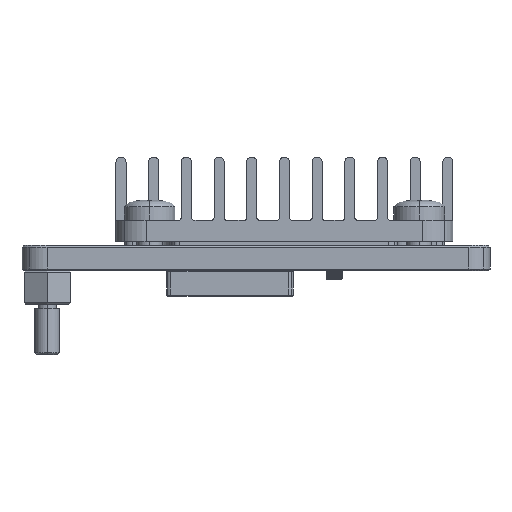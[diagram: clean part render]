
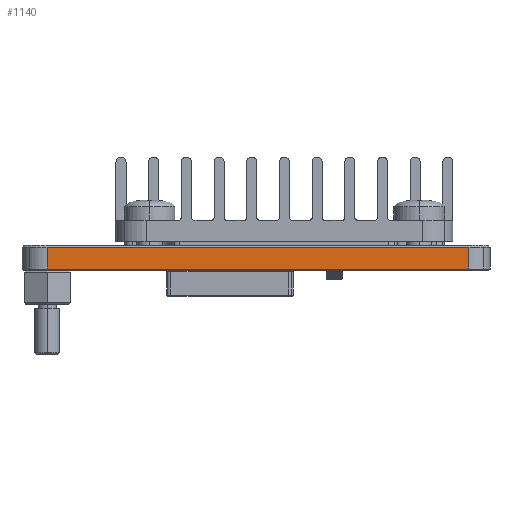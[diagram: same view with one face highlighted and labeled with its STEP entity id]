
A CAD part, left-side view. The second image highlights one B-rep face of the part: STEP entity #1140.
In plain terms, the highlighted planar face has unit normal (-1, 0, 0).
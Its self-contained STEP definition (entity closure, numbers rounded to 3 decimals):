
#1140=ADVANCED_FACE('0:357',(#2430),#2431,.T.);
#2430=FACE_OUTER_BOUND('',#3985,.T.);
#2431=PLANE('',#3986);
#3985=EDGE_LOOP('',(#6948,#6949,#6950,#6951));
#3986=AXIS2_PLACEMENT_3D('',#6952,#6953,#6954);
#6948=ORIENTED_EDGE('',*,*,#10592,.F.);
#6949=ORIENTED_EDGE('',*,*,#10190,.F.);
#6950=ORIENTED_EDGE('',*,*,#10620,.F.);
#6951=ORIENTED_EDGE('',*,*,#10185,.F.);
#6952=CARTESIAN_POINT('',(0.08,59.954,1.15));
#6953=DIRECTION('',(-1.0,0.,0.));
#6954=DIRECTION('',(0.,0.0,1.0));
#10185=EDGE_CURVE('0:1065',#11887,#11980,#11981,.T.);
#10190=EDGE_CURVE('0:1053',#11986,#11988,#11989,.T.);
#10592=EDGE_CURVE('0:1518',#11988,#11887,#12539,.T.);
#10620=EDGE_CURVE('0:1647',#11980,#11986,#12567,.T.);
#11887=VERTEX_POINT('',#14386);
#11980=VERTEX_POINT('',#14501);
#11981=LINE('',#14502,#14503);
#11986=VERTEX_POINT('',#14509);
#11988=VERTEX_POINT('',#14511);
#11989=LINE('',#14512,#14513);
#12539=LINE('',#15204,#15205);
#12567=LINE('',#15250,#15251);
#14386=CARTESIAN_POINT('',(0.08,69.08,4.2));
#14501=CARTESIAN_POINT('',(0.08,69.08,6.8));
#14502=CARTESIAN_POINT('',(0.08,69.08,3.075));
#14503=VECTOR('',#22303,0.001);
#14509=CARTESIAN_POINT('',(0.08,19.031,6.8));
#14511=CARTESIAN_POINT('',(0.08,19.031,4.2));
#14512=CARTESIAN_POINT('',(0.08,19.031,4.575));
#14513=VECTOR('',#22311,0.001);
#15204=CARTESIAN_POINT('',(0.08,64.517,4.2));
#15205=VECTOR('',#22885,0.001);
#15250=CARTESIAN_POINT('',(0.08,64.517,6.8));
#15251=VECTOR('',#22903,0.001);
#22303=DIRECTION('',(0.,0.0,1.0));
#22311=DIRECTION('',(0.,0.0,-1.0));
#22885=DIRECTION('',(0.,1.0,0.0));
#22903=DIRECTION('',(0.,-1.0,0.0));
